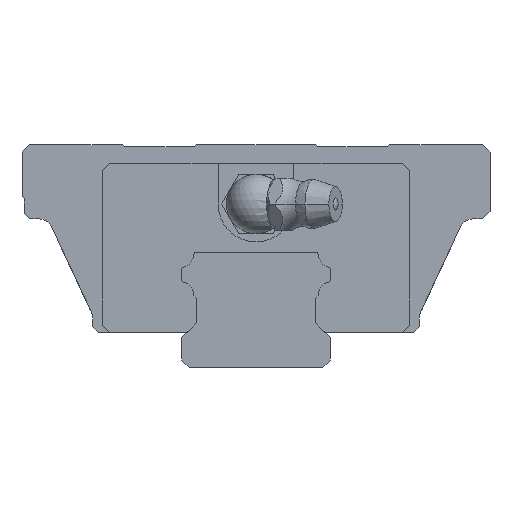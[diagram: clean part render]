
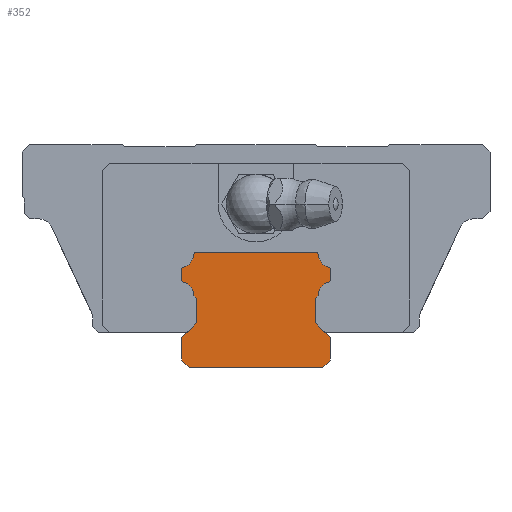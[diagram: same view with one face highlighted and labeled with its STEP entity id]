
A CAD part, front view. The second image highlights one B-rep face of the part: STEP entity #352.
In plain terms, the highlighted planar face has unit normal (0, -1, 0).
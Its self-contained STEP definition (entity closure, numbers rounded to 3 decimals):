
#352=ADVANCED_FACE('',(#796),#797,.F.);
#796=FACE_OUTER_BOUND('',#1299,.T.);
#797=PLANE('',#1300);
#1299=EDGE_LOOP('',(#3022,#3023,#3024,#3025,#3026,#3027,#3028,#3029,#3030,#3031,#3032,#3033,#3034,#3035,#3036,#3037,#3038,#3039,#3040,#3041,#3042,#3043,#3044,#3045));
#1300=AXIS2_PLACEMENT_3D('',#3046,#3047,#3048);
#3022=ORIENTED_EDGE('',*,*,#3949,.F.);
#3023=ORIENTED_EDGE('',*,*,#4008,.F.);
#3024=ORIENTED_EDGE('',*,*,#3988,.F.);
#3025=ORIENTED_EDGE('',*,*,#4006,.F.);
#3026=ORIENTED_EDGE('',*,*,#3973,.F.);
#3027=ORIENTED_EDGE('',*,*,#4009,.F.);
#3028=ORIENTED_EDGE('',*,*,#3996,.F.);
#3029=ORIENTED_EDGE('',*,*,#3969,.F.);
#3030=ORIENTED_EDGE('',*,*,#3980,.F.);
#3031=ORIENTED_EDGE('',*,*,#4010,.F.);
#3032=ORIENTED_EDGE('',*,*,#3992,.F.);
#3033=ORIENTED_EDGE('',*,*,#4011,.F.);
#3034=ORIENTED_EDGE('',*,*,#4012,.F.);
#3035=ORIENTED_EDGE('',*,*,#4013,.F.);
#3036=ORIENTED_EDGE('',*,*,#4003,.F.);
#3037=ORIENTED_EDGE('',*,*,#3999,.F.);
#3038=ORIENTED_EDGE('',*,*,#4014,.F.);
#3039=ORIENTED_EDGE('',*,*,#3963,.F.);
#3040=ORIENTED_EDGE('',*,*,#3959,.F.);
#3041=ORIENTED_EDGE('',*,*,#3966,.F.);
#3042=ORIENTED_EDGE('',*,*,#3985,.F.);
#3043=ORIENTED_EDGE('',*,*,#4015,.F.);
#3044=ORIENTED_EDGE('',*,*,#3956,.F.);
#3045=ORIENTED_EDGE('',*,*,#3953,.F.);
#3046=CARTESIAN_POINT('',(-9.7,-50.85,13.219));
#3047=DIRECTION('',(0.,1.0,0.));
#3048=DIRECTION('',(1.0,0.,0.));
#3949=EDGE_CURVE('',#4916,#4917,#4918,.T.);
#3953=EDGE_CURVE('',#4917,#4924,#4925,.T.);
#3956=EDGE_CURVE('',#4924,#4929,#4930,.T.);
#3959=EDGE_CURVE('',#4934,#4935,#4936,.T.);
#3963=EDGE_CURVE('',#4935,#4942,#4943,.T.);
#3966=EDGE_CURVE('',#4947,#4934,#4948,.T.);
#3969=EDGE_CURVE('',#4952,#4953,#4954,.T.);
#3973=EDGE_CURVE('',#4960,#4961,#4962,.T.);
#3980=EDGE_CURVE('',#4971,#4952,#4972,.T.);
#3985=EDGE_CURVE('',#4979,#4947,#4980,.T.);
#3988=EDGE_CURVE('',#4984,#4985,#4986,.T.);
#3992=EDGE_CURVE('',#4992,#4993,#4994,.T.);
#3996=EDGE_CURVE('',#4953,#5000,#5001,.T.);
#3999=EDGE_CURVE('',#5005,#5006,#5007,.T.);
#4003=EDGE_CURVE('',#5006,#5013,#5014,.T.);
#4006=EDGE_CURVE('',#4961,#4984,#5018,.T.);
#4008=EDGE_CURVE('',#4985,#4916,#5020,.T.);
#4009=EDGE_CURVE('',#5000,#4960,#5021,.T.);
#4010=EDGE_CURVE('',#4993,#4971,#5022,.T.);
#4011=EDGE_CURVE('',#5023,#4992,#5024,.T.);
#4012=EDGE_CURVE('',#5025,#5023,#5026,.T.);
#4013=EDGE_CURVE('',#5013,#5025,#5027,.T.);
#4014=EDGE_CURVE('',#4942,#5005,#5028,.T.);
#4015=EDGE_CURVE('',#4929,#4979,#5029,.T.);
#4916=VERTEX_POINT('',#6370);
#4917=VERTEX_POINT('',#6371);
#4918=LINE('',#6372,#6373);
#4924=VERTEX_POINT('',#6382);
#4925=CIRCLE('',#6383,0.3);
#4929=VERTEX_POINT('',#6388);
#4930=CIRCLE('',#6389,1.9);
#4934=VERTEX_POINT('',#6394);
#4935=VERTEX_POINT('',#6395);
#4936=CIRCLE('',#6396,1.9);
#4942=VERTEX_POINT('',#6404);
#4943=CIRCLE('',#6405,0.3);
#4947=VERTEX_POINT('',#6410);
#4948=CIRCLE('',#6411,0.3);
#4952=VERTEX_POINT('',#6416);
#4953=VERTEX_POINT('',#6417);
#4954=LINE('',#6418,#6419);
#4960=VERTEX_POINT('',#6428);
#4961=VERTEX_POINT('',#6429);
#4962=LINE('',#6430,#6431);
#4971=VERTEX_POINT('',#6443);
#4972=LINE('',#6444,#6445);
#4979=VERTEX_POINT('',#6454);
#4980=LINE('',#6455,#6456);
#4984=VERTEX_POINT('',#6462);
#4985=VERTEX_POINT('',#6463);
#4986=CIRCLE('',#6464,1.9);
#4992=VERTEX_POINT('',#6472);
#4993=VERTEX_POINT('',#6473);
#4994=LINE('',#6474,#6475);
#5000=VERTEX_POINT('',#6484);
#5001=LINE('',#6485,#6486);
#5005=VERTEX_POINT('',#6492);
#5006=VERTEX_POINT('',#6493);
#5007=CIRCLE('',#6494,0.3);
#5013=VERTEX_POINT('',#6502);
#5014=CIRCLE('',#6503,1.9);
#5018=LINE('',#6508,#6509);
#5020=CIRCLE('',#6512,0.3);
#5021=LINE('',#6513,#6514);
#5022=LINE('',#6515,#6516);
#5023=VERTEX_POINT('',#6517);
#5024=LINE('',#6518,#6519);
#5025=VERTEX_POINT('',#6520);
#5026=LINE('',#6521,#6522);
#5027=LINE('',#6523,#6524);
#5028=LINE('',#6525,#6526);
#5029=CIRCLE('',#6527,0.3);
#6370=CARTESIAN_POINT('',(-10.0,-50.85,11.781));
#6371=CARTESIAN_POINT('',(-10.0,-50.85,13.219));
#6372=CARTESIAN_POINT('',(-10.0,-50.85,11.781));
#6373=VECTOR('',#7698,1000.0);
#6382=CARTESIAN_POINT('',(-9.775,-50.85,13.51));
#6383=AXIS2_PLACEMENT_3D('',#7702,#7703,#7704);
#6388=CARTESIAN_POINT('',(-8.354,-50.85,15.22));
#6389=AXIS2_PLACEMENT_3D('',#7709,#7710,#7711);
#6394=CARTESIAN_POINT('',(8.354,-50.85,15.22));
#6395=CARTESIAN_POINT('',(9.775,-50.85,13.51));
#6396=AXIS2_PLACEMENT_3D('',#7716,#7717,#7718);
#6404=CARTESIAN_POINT('',(10.0,-50.85,13.219));
#6405=AXIS2_PLACEMENT_3D('',#7724,#7725,#7726);
#6410=CARTESIAN_POINT('',(8.055,-50.85,15.5));
#6411=AXIS2_PLACEMENT_3D('',#7731,#7732,#7733);
#6416=CARTESIAN_POINT('',(-9.0,-50.85,0.0));
#6417=CARTESIAN_POINT('',(-10.0,-50.85,1.0));
#6418=CARTESIAN_POINT('',(-9.0,-50.85,0.0));
#6419=VECTOR('',#7738,1000.0);
#6428=CARTESIAN_POINT('',(-8.0,-50.85,6.));
#6429=CARTESIAN_POINT('',(-8.0,-50.85,9.3));
#6430=CARTESIAN_POINT('',(-8.0,-50.85,6.));
#6431=VECTOR('',#7742,1000.0);
#6443=CARTESIAN_POINT('',(9.0,-50.85,0.));
#6444=CARTESIAN_POINT('',(9.0,-50.85,0.0));
#6445=VECTOR('',#7755,1000.0);
#6454=CARTESIAN_POINT('',(-8.055,-50.85,15.5));
#6455=CARTESIAN_POINT('',(-8.055,-50.85,15.5));
#6456=VECTOR('',#7764,1000.0);
#6462=CARTESIAN_POINT('',(-8.349,-50.85,9.649));
#6463=CARTESIAN_POINT('',(-9.775,-50.85,11.49));
#6464=AXIS2_PLACEMENT_3D('',#7767,#7768,#7769);
#6472=CARTESIAN_POINT('',(10.0,-50.85,4.));
#6473=CARTESIAN_POINT('',(10.0,-50.85,1.0));
#6474=CARTESIAN_POINT('',(10.0,-50.85,4.));
#6475=VECTOR('',#7775,1000.0);
#6484=CARTESIAN_POINT('',(-10.0,-50.85,4.));
#6485=CARTESIAN_POINT('',(-10.0,-50.85,1.0));
#6486=VECTOR('',#7779,1000.0);
#6492=CARTESIAN_POINT('',(10.0,-50.85,11.781));
#6493=CARTESIAN_POINT('',(9.775,-50.85,11.49));
#6494=AXIS2_PLACEMENT_3D('',#7782,#7783,#7784);
#6502=CARTESIAN_POINT('',(8.349,-50.85,9.649));
#6503=AXIS2_PLACEMENT_3D('',#7790,#7791,#7792);
#6508=CARTESIAN_POINT('',(-8.0,-50.85,9.3));
#6509=VECTOR('',#7797,1000.0);
#6512=AXIS2_PLACEMENT_3D('',#7799,#7800,#7801);
#6513=CARTESIAN_POINT('',(-10.0,-50.85,4.));
#6514=VECTOR('',#7802,1000.0);
#6515=CARTESIAN_POINT('',(10.0,-50.85,1.0));
#6516=VECTOR('',#7803,1000.0);
#6517=CARTESIAN_POINT('',(8.0,-50.85,6.));
#6518=CARTESIAN_POINT('',(8.0,-50.85,6.));
#6519=VECTOR('',#7804,1000.0);
#6520=CARTESIAN_POINT('',(8.0,-50.85,9.3));
#6521=CARTESIAN_POINT('',(8.0,-50.85,9.3));
#6522=VECTOR('',#7805,1000.0);
#6523=CARTESIAN_POINT('',(8.349,-50.85,9.649));
#6524=VECTOR('',#7806,1000.0);
#6525=CARTESIAN_POINT('',(10.0,-50.85,13.219));
#6526=VECTOR('',#7807,1000.0);
#6527=AXIS2_PLACEMENT_3D('',#7808,#7809,#7810);
#7698=DIRECTION('',(0.0,0.0,1.0));
#7702=CARTESIAN_POINT('',(-9.7,-50.85,13.219));
#7703=DIRECTION('',(0.0,1.0,0.));
#7704=DIRECTION('',(1.0,0.0,0.0));
#7709=CARTESIAN_POINT('',(-10.249,-50.85,15.349));
#7710=DIRECTION('',(0.0,-1.0,0.0));
#7711=DIRECTION('',(1.0,0.0,0.0));
#7716=CARTESIAN_POINT('',(10.249,-50.85,15.349));
#7717=DIRECTION('',(0.0,-1.0,0.0));
#7718=DIRECTION('',(1.0,0.0,0.0));
#7724=CARTESIAN_POINT('',(9.7,-50.85,13.219));
#7725=DIRECTION('',(0.0,1.0,0.));
#7726=DIRECTION('',(1.0,0.0,0.0));
#7731=CARTESIAN_POINT('',(8.055,-50.85,15.2));
#7732=DIRECTION('',(0.0,1.0,0.));
#7733=DIRECTION('',(1.0,0.0,0.0));
#7738=DIRECTION('',(-0.707,0.0,0.707));
#7742=DIRECTION('',(0.0,0.0,1.0));
#7755=DIRECTION('',(-1.0,0.0,0.0));
#7764=DIRECTION('',(1.0,0.0,0.0));
#7767=CARTESIAN_POINT('',(-10.249,-50.85,9.651));
#7768=DIRECTION('',(0.0,-1.0,0.0));
#7769=DIRECTION('',(1.0,0.0,0.0));
#7775=DIRECTION('',(0.0,0.0,-1.0));
#7779=DIRECTION('',(0.0,0.0,1.0));
#7782=CARTESIAN_POINT('',(9.7,-50.85,11.781));
#7783=DIRECTION('',(0.0,1.0,0.));
#7784=DIRECTION('',(1.0,0.0,0.0));
#7790=CARTESIAN_POINT('',(10.249,-50.85,9.651));
#7791=DIRECTION('',(0.0,-1.0,0.0));
#7792=DIRECTION('',(1.0,0.0,0.0));
#7797=DIRECTION('',(-0.707,0.0,0.707));
#7799=CARTESIAN_POINT('',(-9.7,-50.85,11.781));
#7800=DIRECTION('',(0.0,1.0,0.));
#7801=DIRECTION('',(1.0,0.0,0.0));
#7802=DIRECTION('',(0.707,0.0,0.707));
#7803=DIRECTION('',(-0.707,0.0,-0.707));
#7804=DIRECTION('',(0.707,0.0,-0.707));
#7805=DIRECTION('',(0.0,0.0,-1.0));
#7806=DIRECTION('',(-0.707,0.0,-0.707));
#7807=DIRECTION('',(0.0,0.0,-1.0));
#7808=CARTESIAN_POINT('',(-8.055,-50.85,15.2));
#7809=DIRECTION('',(0.0,1.0,0.));
#7810=DIRECTION('',(1.0,0.0,0.0));
